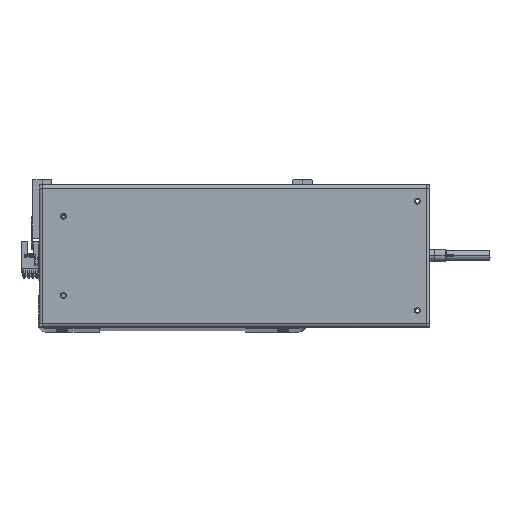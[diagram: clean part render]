
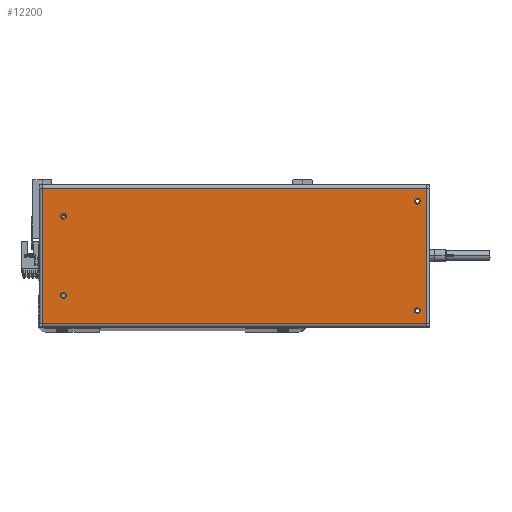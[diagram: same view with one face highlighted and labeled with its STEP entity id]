
A CAD part, top view. The second image highlights one B-rep face of the part: STEP entity #12200.
In plain terms, the highlighted planar face has unit normal (0, 0, 1).
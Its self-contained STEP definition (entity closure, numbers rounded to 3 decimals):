
#44 = DIRECTION ( 'NONE',  ( 0., 0., -1. ) ) ;
#312 = FACE_BOUND ( 'NONE', #18228, .T. ) ;
#380 = CARTESIAN_POINT ( 'NONE',  ( -138., -32.5, 0. ) ) ;
#407 = EDGE_CURVE ( 'NONE', #5116, #5247, #11879, .T. ) ;
#509 = CIRCLE ( 'NONE', #32476, 2.5 ) ;
#1278 = EDGE_CURVE ( 'NONE', #1992, #17891, #29194, .T. ) ;
#1343 = FACE_BOUND ( 'NONE', #12997, .T. ) ;
#1992 = VERTEX_POINT ( 'NONE', #26234 ) ;
#2225 = VERTEX_POINT ( 'NONE', #17186 ) ;
#2350 = CARTESIAN_POINT ( 'NONE',  ( -140.5, -32.5, 0. ) ) ;
#2472 = EDGE_CURVE ( 'NONE', #17891, #1992, #20359, .T. ) ;
#3355 = AXIS2_PLACEMENT_3D ( 'NONE', #37314, #21020, #4365 ) ;
#3416 = ORIENTED_EDGE ( 'NONE', *, *, #35922, .T. ) ;
#4365 = DIRECTION ( 'NONE',  ( 1., 0., 0. ) ) ;
#5116 = VERTEX_POINT ( 'NONE', #16028 ) ;
#5247 = VERTEX_POINT ( 'NONE', #31005 ) ;
#6110 = AXIS2_PLACEMENT_3D ( 'NONE', #8648, #38367, #41559 ) ;
#6569 = DIRECTION ( 'NONE',  ( 0., 0., 1. ) ) ;
#7031 = FACE_BOUND ( 'NONE', #24847, .T. ) ;
#8648 = CARTESIAN_POINT ( 'NONE',  ( -140.5, -32.5, 0. ) ) ;
#9083 = CARTESIAN_POINT ( 'NONE',  ( 153., 45., 0. ) ) ;
#9370 = ORIENTED_EDGE ( 'NONE', *, *, #38054, .F. ) ;
#9491 = VERTEX_POINT ( 'NONE', #380 ) ;
#9910 = DIRECTION ( 'NONE',  ( 1., 0., 0. ) ) ;
#11419 = ORIENTED_EDGE ( 'NONE', *, *, #16016, .F. ) ;
#11521 = DIRECTION ( 'NONE',  ( 1., 0., 0. ) ) ;
#11844 = EDGE_CURVE ( 'NONE', #18141, #14992, #29844, .T. ) ;
#11879 = CIRCLE ( 'NONE', #38425, 2.5 ) ;
#11942 = DIRECTION ( 'NONE',  ( 1., 0., 0. ) ) ;
#12200 = ADVANCED_FACE ( 'NONE', ( #7031, #1343, #312, #15364, #42684 ), #36556, .F. ) ;
#12473 = CARTESIAN_POINT ( 'NONE',  ( 153., -45., 0. ) ) ;
#12765 = CIRCLE ( 'NONE', #3355, 2.5 ) ;
#12997 = EDGE_LOOP ( 'NONE', ( #40155, #35916 ) ) ;
#13464 = AXIS2_PLACEMENT_3D ( 'NONE', #42746, #44, #13492 ) ;
#13492 = DIRECTION ( 'NONE',  ( -1., 0., 0. ) ) ;
#13787 = VECTOR ( 'NONE', #40255, 1000. ) ;
#14777 = CIRCLE ( 'NONE', #36447, 2.5 ) ;
#14992 = VERTEX_POINT ( 'NONE', #26249 ) ;
#15364 = FACE_BOUND ( 'NONE', #23685, .T. ) ;
#15429 = EDGE_CURVE ( 'NONE', #5247, #5116, #12765, .T. ) ;
#16016 = EDGE_CURVE ( 'NONE', #17503, #9491, #33359, .T. ) ;
#16028 = CARTESIAN_POINT ( 'NONE',  ( -138., 32.5, 0. ) ) ;
#17186 = CARTESIAN_POINT ( 'NONE',  ( 148., -45., 0. ) ) ;
#17297 = EDGE_CURVE ( 'NONE', #9491, #17503, #30676, .T. ) ;
#17503 = VERTEX_POINT ( 'NONE', #27138 ) ;
#17891 = VERTEX_POINT ( 'NONE', #9083 ) ;
#18141 = VERTEX_POINT ( 'NONE', #30611 ) ;
#18228 = EDGE_LOOP ( 'NONE', ( #9370, #41023 ) ) ;
#18852 = VECTOR ( 'NONE', #27304, 1000. ) ;
#19592 = CARTESIAN_POINT ( 'NONE',  ( 150.5, -45., 0. ) ) ;
#20359 = CIRCLE ( 'NONE', #23302, 2.5 ) ;
#20597 = EDGE_LOOP ( 'NONE', ( #36222, #3416, #36209, #30084 ) ) ;
#21020 = DIRECTION ( 'NONE',  ( 0., 0., 1. ) ) ;
#21275 = CARTESIAN_POINT ( 'NONE',  ( -157.7, -55.6, 0. ) ) ;
#21457 = CARTESIAN_POINT ( 'NONE',  ( -157.6, 55.6, 0. ) ) ;
#21786 = DIRECTION ( 'NONE',  ( 0., 0., 1. ) ) ;
#22050 = DIRECTION ( 'NONE',  ( 1., 0., 0. ) ) ;
#23302 = AXIS2_PLACEMENT_3D ( 'NONE', #39599, #39458, #25914 ) ;
#23599 = ORIENTED_EDGE ( 'NONE', *, *, #2472, .F. ) ;
#23666 = EDGE_CURVE ( 'NONE', #2225, #40513, #14777, .T. ) ;
#23685 = EDGE_LOOP ( 'NONE', ( #23599, #36571 ) ) ;
#23814 = CARTESIAN_POINT ( 'NONE',  ( 157.7, 55.6, 0. ) ) ;
#24791 = VECTOR ( 'NONE', #40762, 1000. ) ;
#24847 = EDGE_LOOP ( 'NONE', ( #37801, #11419 ) ) ;
#25513 = VERTEX_POINT ( 'NONE', #37103 ) ;
#25914 = DIRECTION ( 'NONE',  ( 1., 0., 0. ) ) ;
#26234 = CARTESIAN_POINT ( 'NONE',  ( 148., 45., 0. ) ) ;
#26249 = CARTESIAN_POINT ( 'NONE',  ( -157.6, -55.6, 0. ) ) ;
#27138 = CARTESIAN_POINT ( 'NONE',  ( -143., -32.5, 0. ) ) ;
#27304 = DIRECTION ( 'NONE',  ( 1., 0., 0. ) ) ;
#29194 = CIRCLE ( 'NONE', #39012, 2.5 ) ;
#29844 = LINE ( 'NONE', #21457, #31387 ) ;
#29870 = EDGE_CURVE ( 'NONE', #38755, #25513, #40317, .T. ) ;
#30084 = ORIENTED_EDGE ( 'NONE', *, *, #32861, .T. ) ;
#30611 = CARTESIAN_POINT ( 'NONE',  ( -157.6, 55.6, 0. ) ) ;
#30629 = CARTESIAN_POINT ( 'NONE',  ( 157.6, -55.6, 0. ) ) ;
#30676 = CIRCLE ( 'NONE', #31638, 2.5 ) ;
#30814 = LINE ( 'NONE', #23814, #13787 ) ;
#30836 = CARTESIAN_POINT ( 'NONE',  ( 157.6, -55.6, 0. ) ) ;
#31005 = CARTESIAN_POINT ( 'NONE',  ( -143., 32.5, 0. ) ) ;
#31234 = LINE ( 'NONE', #21275, #18852 ) ;
#31330 = CARTESIAN_POINT ( 'NONE',  ( 150.5, 45., 0. ) ) ;
#31387 = VECTOR ( 'NONE', #40643, 1000. ) ;
#31638 = AXIS2_PLACEMENT_3D ( 'NONE', #2350, #41904, #39006 ) ;
#32476 = AXIS2_PLACEMENT_3D ( 'NONE', #19592, #6569, #9910 ) ;
#32861 = EDGE_CURVE ( 'NONE', #25513, #18141, #30814, .T. ) ;
#33359 = CIRCLE ( 'NONE', #6110, 2.5 ) ;
#35333 = DIRECTION ( 'NONE',  ( 0., 0., 1. ) ) ;
#35460 = CARTESIAN_POINT ( 'NONE',  ( -140.5, 32.5, 0. ) ) ;
#35916 = ORIENTED_EDGE ( 'NONE', *, *, #15429, .F. ) ;
#35922 = EDGE_CURVE ( 'NONE', #14992, #38755, #31234, .T. ) ;
#36209 = ORIENTED_EDGE ( 'NONE', *, *, #29870, .T. ) ;
#36222 = ORIENTED_EDGE ( 'NONE', *, *, #11844, .T. ) ;
#36447 = AXIS2_PLACEMENT_3D ( 'NONE', #38770, #21786, #11942 ) ;
#36556 = PLANE ( 'NONE',  #13464 ) ;
#36571 = ORIENTED_EDGE ( 'NONE', *, *, #1278, .F. ) ;
#37103 = CARTESIAN_POINT ( 'NONE',  ( 157.6, 55.6, 0. ) ) ;
#37314 = CARTESIAN_POINT ( 'NONE',  ( -140.5, 32.5, 0. ) ) ;
#37632 = DIRECTION ( 'NONE',  ( 0., 0., 1. ) ) ;
#37801 = ORIENTED_EDGE ( 'NONE', *, *, #17297, .F. ) ;
#38054 = EDGE_CURVE ( 'NONE', #40513, #2225, #509, .T. ) ;
#38367 = DIRECTION ( 'NONE',  ( 0., 0., 1. ) ) ;
#38425 = AXIS2_PLACEMENT_3D ( 'NONE', #35460, #35333, #22050 ) ;
#38755 = VERTEX_POINT ( 'NONE', #30629 ) ;
#38770 = CARTESIAN_POINT ( 'NONE',  ( 150.5, -45., 0. ) ) ;
#39006 = DIRECTION ( 'NONE',  ( 1., 0., 0. ) ) ;
#39012 = AXIS2_PLACEMENT_3D ( 'NONE', #31330, #37632, #11521 ) ;
#39458 = DIRECTION ( 'NONE',  ( 0., 0., 1. ) ) ;
#39599 = CARTESIAN_POINT ( 'NONE',  ( 150.5, 45., 0. ) ) ;
#40155 = ORIENTED_EDGE ( 'NONE', *, *, #407, .F. ) ;
#40255 = DIRECTION ( 'NONE',  ( -1., 0., 0. ) ) ;
#40317 = LINE ( 'NONE', #30836, #24791 ) ;
#40513 = VERTEX_POINT ( 'NONE', #12473 ) ;
#40643 = DIRECTION ( 'NONE',  ( 0., -1., 0. ) ) ;
#40762 = DIRECTION ( 'NONE',  ( 0., 1., 0. ) ) ;
#41023 = ORIENTED_EDGE ( 'NONE', *, *, #23666, .F. ) ;
#41559 = DIRECTION ( 'NONE',  ( 1., 0., 0. ) ) ;
#41904 = DIRECTION ( 'NONE',  ( 0., 0., 1. ) ) ;
#42684 = FACE_OUTER_BOUND ( 'NONE', #20597, .T. ) ;
#42746 = CARTESIAN_POINT ( 'NONE',  ( 157.7, 58.5, 0. ) ) ;
